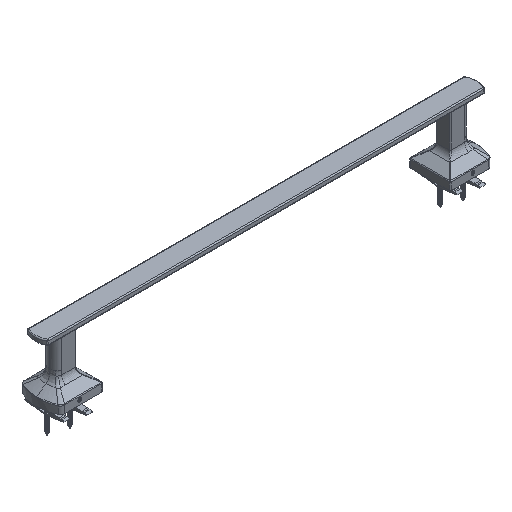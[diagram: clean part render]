
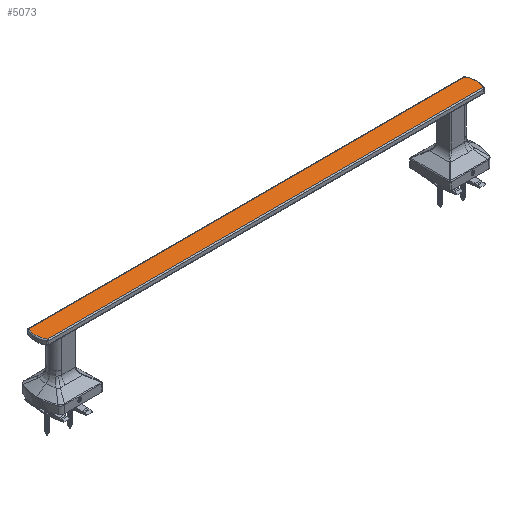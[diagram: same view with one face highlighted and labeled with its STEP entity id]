
A CAD part, isometric view. The second image highlights one B-rep face of the part: STEP entity #5073.
In plain terms, the highlighted planar face has unit normal (0, 0, 1).
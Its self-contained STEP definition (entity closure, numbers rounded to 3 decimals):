
#859 = DIRECTION ( 'NONE',  ( -1., 0., 0. ) ) ;
#2700 = AXIS2_PLACEMENT_3D ( 'NONE', #37463, #37716, #33639 ) ;
#2751 = ORIENTED_EDGE ( 'NONE', *, *, #44352, .T. ) ;
#3854 = AXIS2_PLACEMENT_3D ( 'NONE', #14000, #48127, #44065 ) ;
#5073 = ADVANCED_FACE ( 'NONE', ( #32587 ), #13000, .T. ) ;
#5141 = CIRCLE ( 'NONE', #2700, 0.898 ) ;
#7371 = CARTESIAN_POINT ( 'NONE',  ( -0.549, 0.632, 3.444 ) ) ;
#12067 = DIRECTION ( 'NONE',  ( 1., 0., 0. ) ) ;
#13000 = PLANE ( 'NONE',  #3854 ) ;
#13347 = AXIS2_PLACEMENT_3D ( 'NONE', #19566, #26713, #38400 ) ;
#14000 = CARTESIAN_POINT ( 'NONE',  ( -10.646, 1.058, 3.444 ) ) ;
#15779 = CIRCLE ( 'NONE', #13347, 0.898 ) ;
#16783 = CARTESIAN_POINT ( 'NONE',  ( -20.744, 0.632, 3.444 ) ) ;
#19566 = CARTESIAN_POINT ( 'NONE',  ( -1.34, 1.058, 3.444 ) ) ;
#20693 = ORIENTED_EDGE ( 'NONE', *, *, #37034, .F. ) ;
#22190 = VERTEX_POINT ( 'NONE', #28421 ) ;
#25582 = ORIENTED_EDGE ( 'NONE', *, *, #37488, .T. ) ;
#25812 = ORIENTED_EDGE ( 'NONE', *, *, #43257, .F. ) ;
#26653 = LINE ( 'NONE', #38099, #47469 ) ;
#26713 = DIRECTION ( 'NONE',  ( 0., 0., -1. ) ) ;
#28421 = CARTESIAN_POINT ( 'NONE',  ( -20.744, 1.483, 3.444 ) ) ;
#32046 = VERTEX_POINT ( 'NONE', #7371 ) ;
#32455 = CARTESIAN_POINT ( 'NONE',  ( -0.549, 1.483, 3.444 ) ) ;
#32587 = FACE_OUTER_BOUND ( 'NONE', #36358, .T. ) ;
#33639 = DIRECTION ( 'NONE',  ( -0.881, -0.474, 0. ) ) ;
#36358 = EDGE_LOOP ( 'NONE', ( #25582, #20693, #2751, #25812 ) ) ;
#37034 = EDGE_CURVE ( 'NONE', #42754, #32046, #15779, .T. ) ;
#37463 = CARTESIAN_POINT ( 'NONE',  ( -19.953, 1.058, 3.444 ) ) ;
#37488 = EDGE_CURVE ( 'NONE', #49121, #32046, #38784, .T. ) ;
#37716 = DIRECTION ( 'NONE',  ( 0., 0., -1. ) ) ;
#38099 = CARTESIAN_POINT ( 'NONE',  ( -0.549, 1.483, 3.444 ) ) ;
#38400 = DIRECTION ( 'NONE',  ( 0.881, 0.474, 0. ) ) ;
#38784 = LINE ( 'NONE', #39558, #44255 ) ;
#39558 = CARTESIAN_POINT ( 'NONE',  ( -20.744, 0.632, 3.444 ) ) ;
#42754 = VERTEX_POINT ( 'NONE', #32455 ) ;
#43257 = EDGE_CURVE ( 'NONE', #49121, #22190, #5141, .T. ) ;
#44065 = DIRECTION ( 'NONE',  ( 1., 0., 0. ) ) ;
#44255 = VECTOR ( 'NONE', #12067, 39.37 ) ;
#44352 = EDGE_CURVE ( 'NONE', #42754, #22190, #26653, .T. ) ;
#47469 = VECTOR ( 'NONE', #859, 39.37 ) ;
#48127 = DIRECTION ( 'NONE',  ( 0., 0., 1. ) ) ;
#49121 = VERTEX_POINT ( 'NONE', #16783 ) ;
